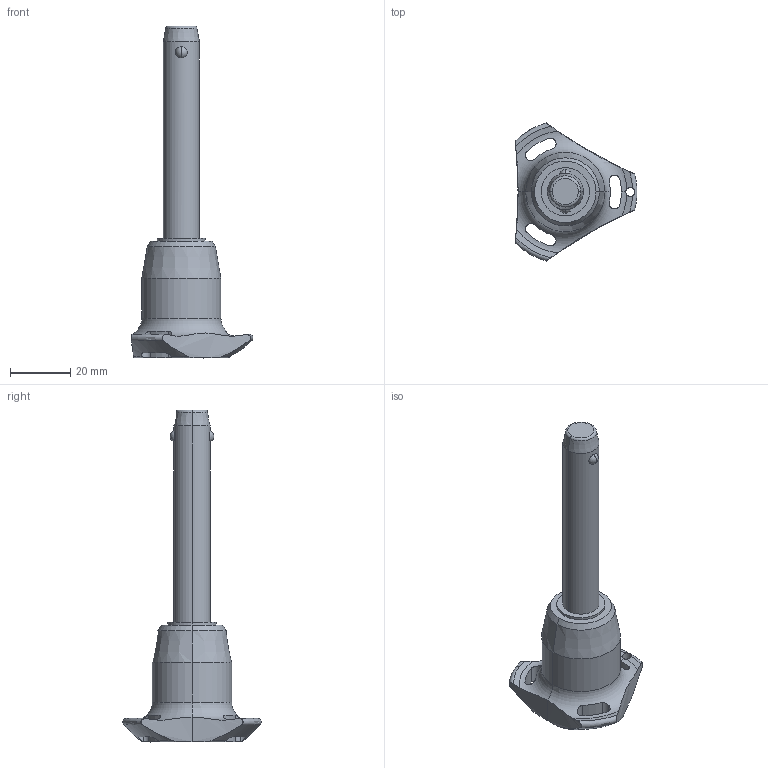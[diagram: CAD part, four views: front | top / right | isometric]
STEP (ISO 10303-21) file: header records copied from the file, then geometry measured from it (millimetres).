
FILE_DESCRIPTION (( 'STEP AP203' ), '1' );
FILE_NAME ('QR1734.M12-060-S.step', '2025-11-12T14:31:41', ( '' ), ( '' ), 'SwSTEP 2.0', 'SolidWorks 2019', '' );
FILE_SCHEMA (( 'CONFIG_CONTROL_DESIGN' ));
Length unit declared in the file: millimetre
Products named in the file (1): QR1734.M12-060-S
Bounding box: 40.5 x 45.88 x 110.3 mm (x, y, z)
Volume: 29921 mm3; surface area: 8599.5 mm2
Topology: 1 solids, 1 shells, 65 faces, 178 edges, 113 vertices
Faces by surface type: cylinder 30, cone 14, torus 11, sphere 6, plane 4
Entity records: 2862 total; most frequent: CARTESIAN_POINT 1173, ORIENTED_EDGE 356, DIRECTION 329, EDGE_CURVE 178, AXIS2_PLACEMENT_3D 147, VERTEX_POINT 113, CIRCLE 81, EDGE_LOOP 71
